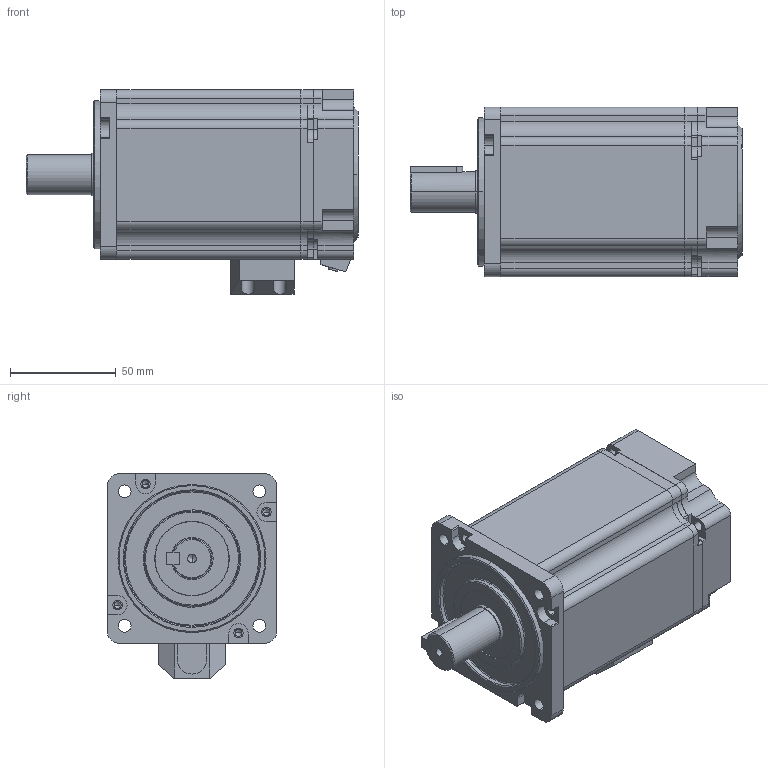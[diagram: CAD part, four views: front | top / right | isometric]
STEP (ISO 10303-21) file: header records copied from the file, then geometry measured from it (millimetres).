
FILE_DESCRIPTION (( 'STEP AP203' ), '1' );
FILE_NAME ('DSMD-08-1030A-G321-N.STEP', '2023-09-07T06:57:52', ( 'Admin' ), ( '' ), 'SwSTEP 2.0', 'SolidWorks 2018', '' );
FILE_SCHEMA (( 'CONFIG_CONTROL_DESIGN' ));
Length unit declared in the file: millimetre
Products named in the file (1): DSMD-08-1030A-G321-N
Bounding box: 157 x 80.2 x 96.7 mm (x, y, z)
Volume: 242476 mm3; surface area: 135606.5 mm2
Topology: 8 solids, 8 shells, 866 faces, 2239 edges, 1389 vertices
Faces by surface type: cylinder 386, plane 272, bspline 123, cone 85
Entity records: 29104 total; most frequent: CARTESIAN_POINT 7954, DIRECTION 4540, ORIENTED_EDGE 4380, EDGE_CURVE 2190, AXIS2_PLACEMENT_3D 1765, VERTEX_POINT 1389, CIRCLE 1021, EDGE_LOOP 1011
